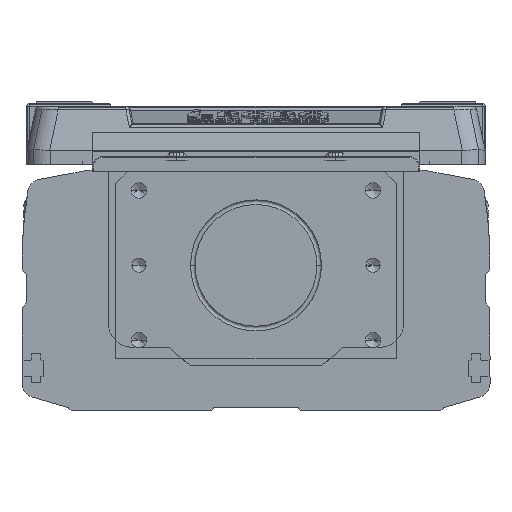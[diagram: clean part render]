
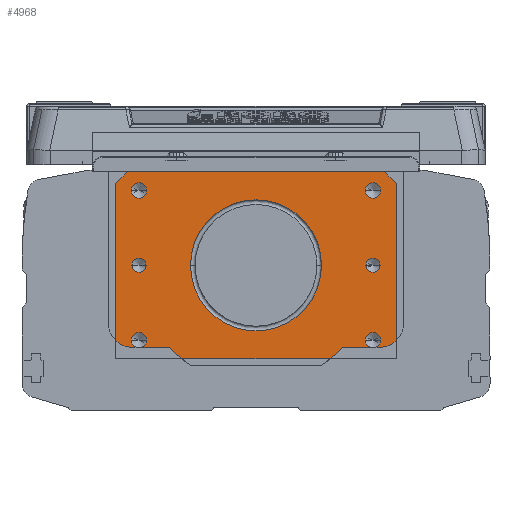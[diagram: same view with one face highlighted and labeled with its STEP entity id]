
A CAD part, left-side view. The second image highlights one B-rep face of the part: STEP entity #4968.
In plain terms, the highlighted planar face has unit normal (-1, 0, 0).
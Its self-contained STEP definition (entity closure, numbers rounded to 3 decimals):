
#4968=ADVANCED_FACE('',(#10212,#10213,#10214,#10215,#10216,#10217,#10218,#10219),#10220,.T.);
#10212=FACE_BOUND('',#16117,.T.);
#10213=FACE_BOUND('',#16118,.T.);
#10214=FACE_BOUND('',#16119,.T.);
#10215=FACE_BOUND('',#16120,.T.);
#10216=FACE_BOUND('',#16121,.T.);
#10217=FACE_BOUND('',#16122,.T.);
#10218=FACE_BOUND('',#16123,.T.);
#10219=FACE_OUTER_BOUND('',#16124,.T.);
#10220=PLANE('',#16125);
#16117=EDGE_LOOP('',(#30345,#30346));
#16118=EDGE_LOOP('',(#30347,#30348));
#16119=EDGE_LOOP('',(#30349,#30350));
#16120=EDGE_LOOP('',(#30351,#30352));
#16121=EDGE_LOOP('',(#30353,#30354));
#16122=EDGE_LOOP('',(#30355,#30356));
#16123=EDGE_LOOP('',(#30357,#30358,#30359));
#16124=EDGE_LOOP('',(#30360,#30361,#30362,#30363,#30364,#30365));
#16125=AXIS2_PLACEMENT_3D('',#30366,#30367,#30368);
#30345=ORIENTED_EDGE('',*,*,#38807,.T.);
#30346=ORIENTED_EDGE('',*,*,#35049,.T.);
#30347=ORIENTED_EDGE('',*,*,#34174,.T.);
#30348=ORIENTED_EDGE('',*,*,#38923,.T.);
#30349=ORIENTED_EDGE('',*,*,#38306,.T.);
#30350=ORIENTED_EDGE('',*,*,#36785,.T.);
#30351=ORIENTED_EDGE('',*,*,#35793,.T.);
#30352=ORIENTED_EDGE('',*,*,#39097,.T.);
#30353=ORIENTED_EDGE('',*,*,#36612,.T.);
#30354=ORIENTED_EDGE('',*,*,#34482,.T.);
#30355=ORIENTED_EDGE('',*,*,#38936,.T.);
#30356=ORIENTED_EDGE('',*,*,#38649,.T.);
#30357=ORIENTED_EDGE('',*,*,#39098,.T.);
#30358=ORIENTED_EDGE('',*,*,#36588,.T.);
#30359=ORIENTED_EDGE('',*,*,#39099,.T.);
#30360=ORIENTED_EDGE('',*,*,#38137,.F.);
#30361=ORIENTED_EDGE('',*,*,#39019,.F.);
#30362=ORIENTED_EDGE('',*,*,#39100,.T.);
#30363=ORIENTED_EDGE('',*,*,#34558,.T.);
#30364=ORIENTED_EDGE('',*,*,#37726,.F.);
#30365=ORIENTED_EDGE('',*,*,#39101,.T.);
#30366=CARTESIAN_POINT('',(-580.,0.,-20.));
#30367=DIRECTION('',(-1.0,0.,0.));
#30368=DIRECTION('',(0.,-1.0,0.));
#34174=EDGE_CURVE('',#41186,#41191,#41193,.T.);
#34482=EDGE_CURVE('',#41716,#41714,#41717,.T.);
#34558=EDGE_CURVE('',#41846,#41843,#41847,.T.);
#35049=EDGE_CURVE('',#42656,#42653,#42657,.T.);
#35793=EDGE_CURVE('',#43849,#43852,#43854,.T.);
#36588=EDGE_CURVE('',#45084,#45086,#45088,.T.);
#36612=EDGE_CURVE('',#41714,#41716,#45121,.T.);
#36785=EDGE_CURVE('',#45372,#45370,#45373,.T.);
#37726=EDGE_CURVE('',#46664,#41843,#46665,.T.);
#38137=EDGE_CURVE('',#47190,#47192,#47193,.T.);
#38306=EDGE_CURVE('',#45370,#45372,#47417,.T.);
#38649=EDGE_CURVE('',#47833,#47831,#47834,.T.);
#38807=EDGE_CURVE('',#42653,#42656,#48012,.T.);
#38923=EDGE_CURVE('',#41191,#41186,#48149,.T.);
#38936=EDGE_CURVE('',#47831,#47833,#48166,.T.);
#39019=EDGE_CURVE('',#48254,#47190,#48256,.T.);
#39097=EDGE_CURVE('',#43852,#43849,#48339,.T.);
#39098=EDGE_CURVE('',#48340,#45084,#48341,.T.);
#39099=EDGE_CURVE('',#45086,#48340,#48342,.T.);
#39100=EDGE_CURVE('',#48254,#41846,#48343,.T.);
#39101=EDGE_CURVE('',#46664,#47192,#48344,.T.);
#41186=VERTEX_POINT('',#51141);
#41191=VERTEX_POINT('',#51147);
#41193=CIRCLE('',#51150,1.5);
#41714=VERTEX_POINT('',#51858);
#41716=VERTEX_POINT('',#51861);
#41717=CIRCLE('',#51862,1.65);
#41843=VERTEX_POINT('',#52035);
#41846=VERTEX_POINT('',#52039);
#41847=LINE('',#52040,#52041);
#42653=VERTEX_POINT('',#53134);
#42656=VERTEX_POINT('',#53138);
#42657=CIRCLE('',#53139,1.5);
#43849=VERTEX_POINT('',#54718);
#43852=VERTEX_POINT('',#54722);
#43854=CIRCLE('',#54725,1.65);
#45084=VERTEX_POINT('',#56420);
#45086=VERTEX_POINT('',#56422);
#45088=CIRCLE('',#56424,14.0);
#45121=CIRCLE('',#56468,1.65);
#45370=VERTEX_POINT('',#56971);
#45372=VERTEX_POINT('',#56974);
#45373=CIRCLE('',#56975,1.65);
#46664=VERTEX_POINT('',#58720);
#46665=LINE('',#58721,#58722);
#47190=VERTEX_POINT('',#59448);
#47192=VERTEX_POINT('',#59451);
#47193=LINE('',#59452,#59453);
#47417=CIRCLE('',#59771,1.65);
#47831=VERTEX_POINT('',#60383);
#47833=VERTEX_POINT('',#60386);
#47834=CIRCLE('',#60387,1.65);
#48012=CIRCLE('',#60626,1.5);
#48149=CIRCLE('',#60802,1.5);
#48166=CIRCLE('',#60821,1.65);
#48254=VERTEX_POINT('',#60930);
#48256=LINE('',#60933,#60934);
#48339=CIRCLE('',#61038,1.65);
#48340=VERTEX_POINT('',#61039);
#48341=CIRCLE('',#61040,14.0);
#48342=CIRCLE('',#61041,14.0);
#48343=LINE('',#61042,#61043);
#48344=LINE('',#61044,#61045);
#51141=CARTESIAN_POINT('',(-580.,26.5,0.));
#51147=CARTESIAN_POINT('',(-580.,23.5,0.));
#51150=AXIS2_PLACEMENT_3D('',#62853,#62854,#62855);
#51858=CARTESIAN_POINT('',(-580.,26.65,16.));
#51861=CARTESIAN_POINT('',(-580.,23.35,16.));
#51862=AXIS2_PLACEMENT_3D('',#63254,#63255,#63256);
#52035=CARTESIAN_POINT('',(-580.,-30.,17.5));
#52039=CARTESIAN_POINT('',(-580.,-30.,-20.));
#52040=CARTESIAN_POINT('',(-580.,-30.,-20.));
#52041=VECTOR('',#63359,10.0);
#53134=CARTESIAN_POINT('',(-580.,-26.5,0.));
#53138=CARTESIAN_POINT('',(-580.,-23.5,0.));
#53139=AXIS2_PLACEMENT_3D('',#63987,#63988,#63989);
#54718=CARTESIAN_POINT('',(-580.,26.65,-16.));
#54722=CARTESIAN_POINT('',(-580.,23.35,-16.));
#54725=AXIS2_PLACEMENT_3D('',#65036,#65037,#65038);
#56420=CARTESIAN_POINT('',(-580.,14.,0.));
#56422=CARTESIAN_POINT('',(-580.,-14.,0.));
#56424=AXIS2_PLACEMENT_3D('',#66135,#66136,#66137);
#56468=AXIS2_PLACEMENT_3D('',#66164,#66165,#66166);
#56971=CARTESIAN_POINT('',(-580.,-26.65,-16.));
#56974=CARTESIAN_POINT('',(-580.,-23.35,-16.));
#56975=AXIS2_PLACEMENT_3D('',#66365,#66366,#66367);
#58720=CARTESIAN_POINT('',(-580.,-27.5,20.));
#58721=CARTESIAN_POINT('',(-580.,-31.25,16.25));
#58722=VECTOR('',#67545,10.);
#59448=CARTESIAN_POINT('',(-580.,30.,17.5));
#59451=CARTESIAN_POINT('',(-580.,27.5,20.));
#59452=CARTESIAN_POINT('',(-580.,31.25,16.25));
#59453=VECTOR('',#68024,10.);
#59771=AXIS2_PLACEMENT_3D('',#68265,#68266,#68267);
#60383=CARTESIAN_POINT('',(-580.,-26.65,16.));
#60386=CARTESIAN_POINT('',(-580.,-23.35,16.));
#60387=AXIS2_PLACEMENT_3D('',#68591,#68592,#68593);
#60626=AXIS2_PLACEMENT_3D('',#68742,#68743,#68744);
#60802=AXIS2_PLACEMENT_3D('',#68862,#68863,#68864);
#60821=AXIS2_PLACEMENT_3D('',#68879,#68880,#68881);
#60930=CARTESIAN_POINT('',(-580.,30.,-20.));
#60933=CARTESIAN_POINT('',(-580.,30.,-20.));
#60934=VECTOR('',#68964,10.0);
#61038=AXIS2_PLACEMENT_3D('',#69046,#69047,#69048);
#61039=CARTESIAN_POINT('',(-580.,0.,-14.));
#61040=AXIS2_PLACEMENT_3D('',#69049,#69050,#69051);
#61041=AXIS2_PLACEMENT_3D('',#69052,#69053,#69054);
#61042=CARTESIAN_POINT('',(-580.,30.,-20.));
#61043=VECTOR('',#69055,10.0);
#61044=CARTESIAN_POINT('',(-580.,30.,20.));
#61045=VECTOR('',#69056,10.0);
#62853=CARTESIAN_POINT('',(-580.,25.,0.));
#62854=DIRECTION('',(1.0,0.,0.));
#62855=DIRECTION('',(0.,1.0,0.));
#63254=CARTESIAN_POINT('',(-580.,25.,16.));
#63255=DIRECTION('',(1.0,0.,0.));
#63256=DIRECTION('',(0.,1.0,0.));
#63359=DIRECTION('',(0.,0.,1.0));
#63987=CARTESIAN_POINT('',(-580.,-25.,0.));
#63988=DIRECTION('',(1.0,0.,0.));
#63989=DIRECTION('',(0.,-1.0,0.));
#65036=CARTESIAN_POINT('',(-580.,25.,-16.));
#65037=DIRECTION('',(1.0,0.,0.));
#65038=DIRECTION('',(0.,1.0,0.));
#66135=CARTESIAN_POINT('',(-580.,0.,0.));
#66136=DIRECTION('',(1.0,0.,0.));
#66137=DIRECTION('',(0.,0.,1.0));
#66164=CARTESIAN_POINT('',(-580.,25.,16.));
#66165=DIRECTION('',(1.0,0.,0.));
#66166=DIRECTION('',(0.,1.0,0.));
#66365=CARTESIAN_POINT('',(-580.,-25.,-16.));
#66366=DIRECTION('',(1.0,0.,0.));
#66367=DIRECTION('',(0.,-1.0,0.));
#67545=DIRECTION('',(0.0,-0.707,-0.707));
#68024=DIRECTION('',(0.,-0.707,0.707));
#68265=CARTESIAN_POINT('',(-580.,-25.,-16.));
#68266=DIRECTION('',(1.0,0.,0.));
#68267=DIRECTION('',(0.,-1.0,0.));
#68591=CARTESIAN_POINT('',(-580.,-25.,16.));
#68592=DIRECTION('',(1.0,0.,0.));
#68593=DIRECTION('',(0.,-1.0,0.));
#68742=CARTESIAN_POINT('',(-580.,-25.,0.));
#68743=DIRECTION('',(1.0,0.,0.));
#68744=DIRECTION('',(0.,-1.0,0.));
#68862=CARTESIAN_POINT('',(-580.,25.,0.));
#68863=DIRECTION('',(1.0,0.,0.));
#68864=DIRECTION('',(0.,1.0,0.));
#68879=CARTESIAN_POINT('',(-580.,-25.,16.));
#68880=DIRECTION('',(1.0,0.,0.));
#68881=DIRECTION('',(0.,-1.0,0.));
#68964=DIRECTION('',(0.,0.,1.0));
#69046=CARTESIAN_POINT('',(-580.,25.,-16.));
#69047=DIRECTION('',(1.0,0.,0.));
#69048=DIRECTION('',(0.,1.0,0.));
#69049=CARTESIAN_POINT('',(-580.,0.,0.));
#69050=DIRECTION('',(1.0,0.,0.));
#69051=DIRECTION('',(0.,0.,1.0));
#69052=CARTESIAN_POINT('',(-580.,0.,0.));
#69053=DIRECTION('',(1.0,0.,0.));
#69054=DIRECTION('',(0.,0.,1.0));
#69055=DIRECTION('',(0.,-1.0,0.));
#69056=DIRECTION('',(0.,1.0,0.));
